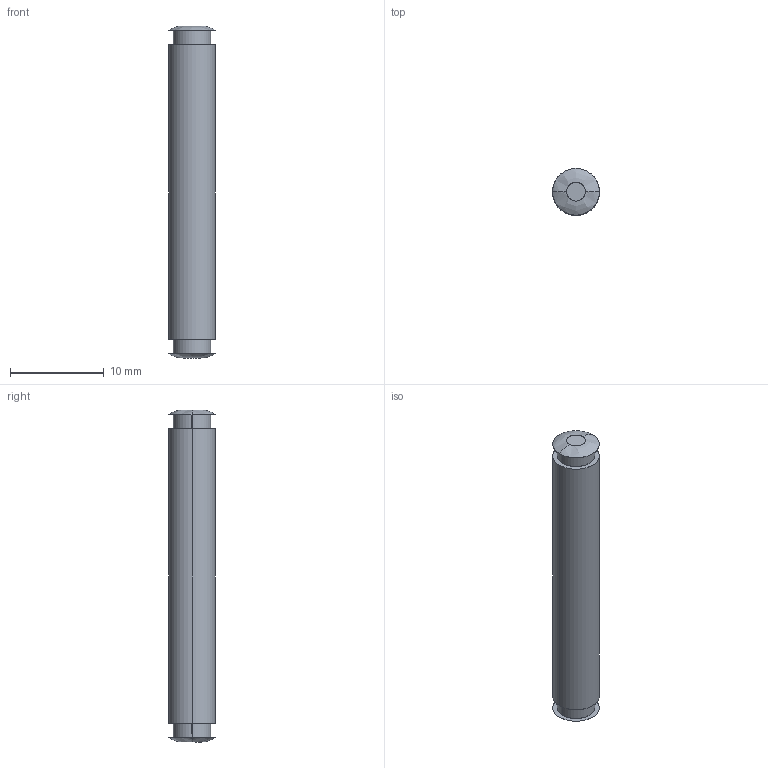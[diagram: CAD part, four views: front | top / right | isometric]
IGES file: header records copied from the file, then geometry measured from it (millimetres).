
Start section: SolidWorks IGES FILE using analytic representation for surfaces
Global section: file name: C:\WINNT\Profiles\cbrechard\Bureau\GE 35\35.100.00.IGS; native system: SolidWorks 2001Plus by SolidWorks Corporation; preprocessor: Version 5.3; author: CBRECHARD; date: 050124.172959; units: millimetre
Bounding box: 5 x 5 x 35.5 mm (x, y, z)
Surface area: 603 mm2 (no closed solid volume)
Topology: 0 solids, 0 shells, 16 faces, 360 edges, 360 vertices
Faces by surface type: bspline 10, revolution 6
